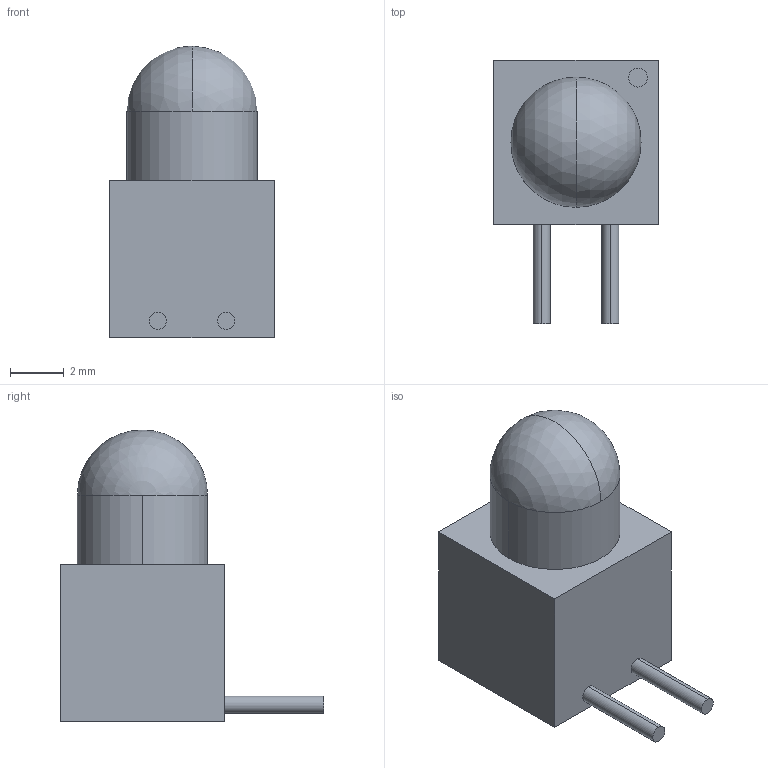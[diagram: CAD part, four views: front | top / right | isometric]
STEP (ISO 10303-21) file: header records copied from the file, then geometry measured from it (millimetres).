
FILE_DESCRIPTION (( 'STEP AP214' ), '1' );
FILE_NAME ('550-0505.STEP', '2013-04-01T10:29:17', ( 'Tester2' ), ( '' ), 'SwSTEP 2.0', 'SolidWorks 2012', '' );
FILE_SCHEMA (( 'AUTOMOTIVE_DESIGN' ));
Length unit declared in the file: millimetre
Products named in the file (1): 550-0505
Bounding box: 6.1 x 9.78 x 10.84 mm (x, y, z)
Volume: 296.3 mm3; surface area: 290 mm2
Topology: 1 solids, 1 shells, 19 faces, 42 edges, 27 vertices
Faces by surface type: plane 9, cylinder 8, sphere 2
Entity records: 666 total; most frequent: DIRECTION 100, CARTESIAN_POINT 87, ORIENTED_EDGE 80, AXIS2_PLACEMENT_3D 40, EDGE_CURVE 40, VERTEX_POINT 27, EDGE_LOOP 23, VECTOR 20
